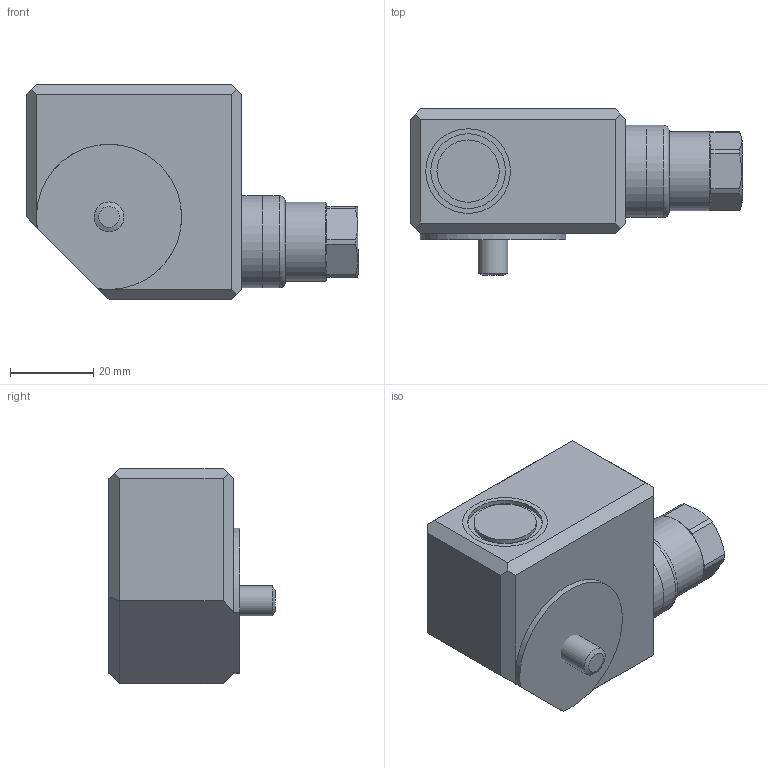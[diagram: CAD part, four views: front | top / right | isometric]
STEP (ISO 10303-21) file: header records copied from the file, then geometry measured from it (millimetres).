
FILE_DESCRIPTION(/* description */ (''),/* implementation_level */ '2;1');
FILE_NAME(/* name */ 'Z:\Engineering\Drawings\3D Library\Assemblies\Website\420 Triaxial Velocity\HS-473XXX4302.stp',/* time_stamp */ '2023-05-09T21:41:20+01:00',/* author */ ('Ricardo.Peneda'),/* organization */ (''),/* preprocessor_version */ 'ST-DEVELOPER v18.1',/* originating_system */ 'Autodesk Inventor 2021',/* authorisation */ '');
FILE_SCHEMA (('AUTOMOTIVE_DESIGN { 1 0 10303 214 3 1 1 }'));
Length unit declared in the file: inch
Products named in the file (1): HS-473XXX4302_Shrinkwrap_1
Bounding box: 79.98 x 40 x 52 mm (x, y, z)
Volume: 57143.4 mm3; surface area: 23270.3 mm2
Topology: 6 solids, 6 shells, 105 faces, 267 edges, 194 vertices
Faces by surface type: plane 64, cylinder 33, cone 6, torus 2
Full cylindrical faces by diameter (mm): 4.5 x1, 6 x1, 7.2 x1, 9 x1, 10 x1, 11.647 x1, 12 x1, 13.882 x1, 15 x4, 18 x3, 19 x1, 19.95 x1, 20 x3, 20.4 x4, 22.2 x2
Entity records: 3476 total; most frequent: DIRECTION 611, CARTESIAN_POINT 597, ORIENTED_EDGE 534, EDGE_CURVE 267, AXIS2_PLACEMENT_3D 244, VERTEX_POINT 194, CIRCLE 138, EDGE_LOOP 131
